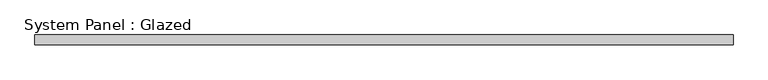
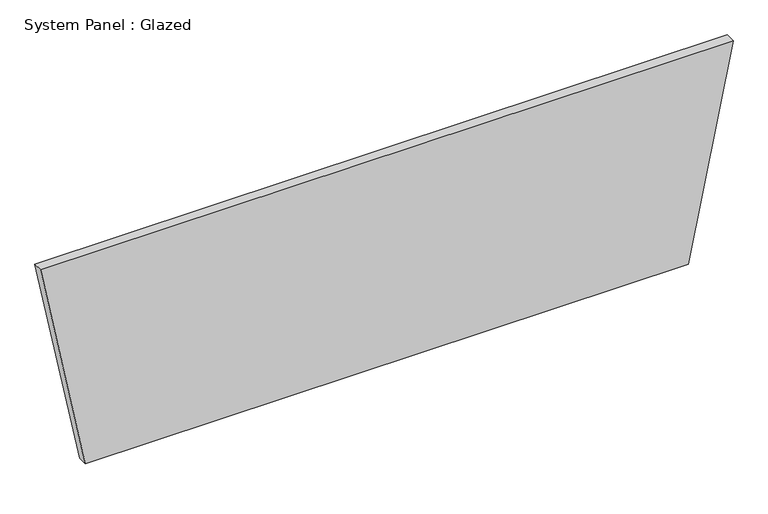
"""IFC4 building model written with IfcOpenShell, lengths in millimetres: plate geometry, System Panel : Glazed."""

from ifc_helpers import new_model, si_unit, frame, origin, place, context, project, spatial, polyline, outline, extrude, source, transform, mapped, element, save


def system_panel_glazed_15cacd98(model_context):
    return source(origin(), model_context, "Body", "SweptSolid", [
        extrude(outline(polyline([(0.0, -781.1021078), (0.0, 781.1021078), (572.0638084, 896.9903024), (572.0638084, -896.9903024), (0.0, -781.1021078)])), frame((0.0, 19.05, 0.0), z_axis=(0.0, 1.0, 0.0), x_axis=(0.0, 0.0, 1.0)), (0.0, 0.0, 1.0), 25.4),
    ])


if __name__ == "__main__":
    model = new_model("IFC4")
    model_context = context("Model", 3, world=origin())
    ifc_project = project(units=[si_unit("LENGTHUNIT", "METRE", prefix="MILLI")], contexts=[model_context])
    site = spatial("IfcSite", under=ifc_project)
    building = spatial("IfcBuilding", under=site)
    placement = place(None, origin())
    system_panel_glazed_shape = system_panel_glazed_15cacd98(model_context)
    element("IfcPlate", 1, ObjectType="System Panel : Glazed", at=placement, inside=building, context=model_context, shape_type="MappedRepresentation", body=[
        mapped(system_panel_glazed_shape, transform((0.0, 0.0, 0.0), x_axis=(1.0, 0.0, 0.0), y_axis=(0.0, 1.0, 0.0), z_axis=(0.0, 0.0, 1.0))),
    ])
    save(model, "model.ifc")
